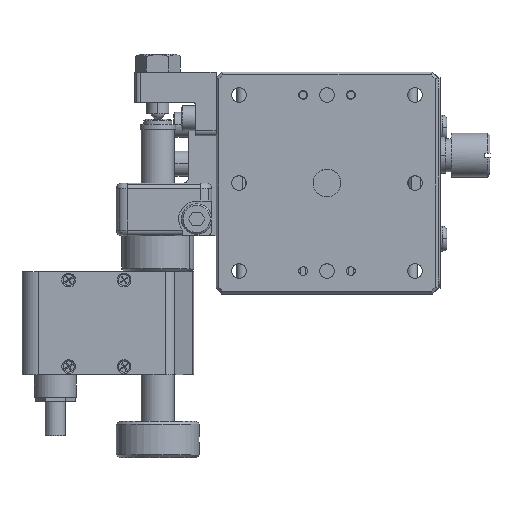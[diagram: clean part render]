
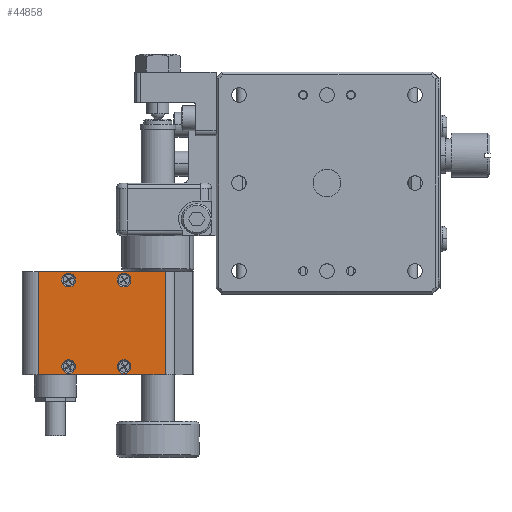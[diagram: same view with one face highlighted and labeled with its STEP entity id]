
A CAD part, top view. The second image highlights one B-rep face of the part: STEP entity #44858.
In plain terms, the highlighted planar face has unit normal (0, 0, 1) as drawn and (0, 0, -1) by its records, which use the part's own axes.
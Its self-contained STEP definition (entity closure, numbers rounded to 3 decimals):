
#398 = LINE ( 'NONE', #32602, #17874 ) ;
#399 = CARTESIAN_POINT ( 'NONE',  ( -102.248, -34.426, -63.353 ) ) ;
#670 = AXIS2_PLACEMENT_3D ( 'NONE', #399, #29032, #29495 ) ;
#1150 = CARTESIAN_POINT ( 'NONE',  ( -113.498, -34.426, -63.353 ) ) ;
#1625 = CIRCLE ( 'NONE', #9985, 1.25 ) ;
#1752 = EDGE_CURVE ( 'NONE', #8333, #39153, #18120, .T. ) ;
#1891 = EDGE_CURVE ( 'NONE', #32755, #18820, #20287, .T. ) ;
#2566 = AXIS2_PLACEMENT_3D ( 'NONE', #34320, #23354, #20237 ) ;
#2644 = ORIENTED_EDGE ( 'NONE', *, *, #33656, .F. ) ;
#2916 = LINE ( 'NONE', #10055, #46033 ) ;
#4444 = ORIENTED_EDGE ( 'NONE', *, *, #28870, .T. ) ;
#5360 = EDGE_LOOP ( 'NONE', ( #31943, #36322 ) ) ;
#5366 = VERTEX_POINT ( 'NONE', #8086 ) ;
#5564 = EDGE_CURVE ( 'NONE', #32997, #32348, #14298, .T. ) ;
#5994 = ORIENTED_EDGE ( 'NONE', *, *, #20140, .F. ) ;
#6088 = CIRCLE ( 'NONE', #42656, 1.25 ) ;
#6212 = CARTESIAN_POINT ( 'NONE',  ( -117.648, -35.926, -63.353 ) ) ;
#6739 = CARTESIAN_POINT ( 'NONE',  ( -112.248, -17.576, -63.353 ) ) ;
#7044 = DIRECTION ( 'NONE',  ( 0., 0., -1. ) ) ;
#7209 = FACE_BOUND ( 'NONE', #17309, .T. ) ;
#7308 = CARTESIAN_POINT ( 'NONE',  ( -112.248, -34.426, -63.353 ) ) ;
#7845 = EDGE_CURVE ( 'NONE', #18437, #35997, #30621, .T. ) ;
#8086 = CARTESIAN_POINT ( 'NONE',  ( -94.853, -35.926, -63.353 ) ) ;
#8333 = VERTEX_POINT ( 'NONE', #47104 ) ;
#8822 = AXIS2_PLACEMENT_3D ( 'NONE', #36645, #36182, #14681 ) ;
#9264 = ORIENTED_EDGE ( 'NONE', *, *, #37974, .F. ) ;
#9704 = DIRECTION ( 'NONE',  ( 0., 0., -1. ) ) ;
#9985 = AXIS2_PLACEMENT_3D ( 'NONE', #7308, #24933, #10622 ) ;
#10055 = CARTESIAN_POINT ( 'NONE',  ( -117.648, -35.926, -63.353 ) ) ;
#10622 = DIRECTION ( 'NONE',  ( 1., 0., 0. ) ) ;
#11812 = DIRECTION ( 'NONE',  ( 0., 1., 0. ) ) ;
#12415 = DIRECTION ( 'NONE',  ( 0., 1., 0. ) ) ;
#12805 = DIRECTION ( 'NONE',  ( 1., 0., 0. ) ) ;
#14298 = CIRCLE ( 'NONE', #33390, 1.25 ) ;
#14681 = DIRECTION ( 'NONE',  ( 0., 1., 0. ) ) ;
#16481 = CARTESIAN_POINT ( 'NONE',  ( -112.248, -18.826, -63.353 ) ) ;
#17006 = EDGE_CURVE ( 'NONE', #39153, #8333, #6088, .T. ) ;
#17276 = CARTESIAN_POINT ( 'NONE',  ( -117.648, -17.326, -63.353 ) ) ;
#17289 = DIRECTION ( 'NONE',  ( 0., 1., 0. ) ) ;
#17309 = EDGE_LOOP ( 'NONE', ( #26051, #9264 ) ) ;
#17690 = FACE_OUTER_BOUND ( 'NONE', #41655, .T. ) ;
#17874 = VECTOR ( 'NONE', #47143, 1000. ) ;
#18120 = CIRCLE ( 'NONE', #37936, 1.25 ) ;
#18164 = PLANE ( 'NONE',  #18624 ) ;
#18437 = VERTEX_POINT ( 'NONE', #6739 ) ;
#18624 = AXIS2_PLACEMENT_3D ( 'NONE', #25075, #39878, #46553 ) ;
#18765 = EDGE_LOOP ( 'NONE', ( #33107, #39033 ) ) ;
#18820 = VERTEX_POINT ( 'NONE', #6212 ) ;
#18972 = CARTESIAN_POINT ( 'NONE',  ( -102.248, -18.826, -63.353 ) ) ;
#20140 = EDGE_CURVE ( 'NONE', #35997, #18437, #27065, .T. ) ;
#20237 = DIRECTION ( 'NONE',  ( 0., 1., 0. ) ) ;
#20287 = LINE ( 'NONE', #42467, #29567 ) ;
#20444 = ORIENTED_EDGE ( 'NONE', *, *, #44768, .F. ) ;
#21411 = ORIENTED_EDGE ( 'NONE', *, *, #7845, .F. ) ;
#22716 = EDGE_CURVE ( 'NONE', #29110, #36854, #30193, .T. ) ;
#23354 = DIRECTION ( 'NONE',  ( 0., 0., -1. ) ) ;
#23601 = CARTESIAN_POINT ( 'NONE',  ( -102.248, -17.576, -63.353 ) ) ;
#23637 = DIRECTION ( 'NONE',  ( 0., 0., -1. ) ) ;
#24264 = CARTESIAN_POINT ( 'NONE',  ( -112.248, -34.426, -63.353 ) ) ;
#24907 = CARTESIAN_POINT ( 'NONE',  ( -102.248, -18.826, -63.353 ) ) ;
#24933 = DIRECTION ( 'NONE',  ( 0., 0., -1. ) ) ;
#25075 = CARTESIAN_POINT ( 'NONE',  ( -94.853, -35.926, -63.353 ) ) ;
#26051 = ORIENTED_EDGE ( 'NONE', *, *, #5564, .F. ) ;
#27065 = CIRCLE ( 'NONE', #2566, 1.25 ) ;
#27092 = CARTESIAN_POINT ( 'NONE',  ( -117.648, -17.326, -63.353 ) ) ;
#27593 = VECTOR ( 'NONE', #46373, 1000. ) ;
#28870 = EDGE_CURVE ( 'NONE', #32755, #29417, #31131, .T. ) ;
#29032 = DIRECTION ( 'NONE',  ( 0., 0., -1. ) ) ;
#29110 = VERTEX_POINT ( 'NONE', #35365 ) ;
#29417 = VERTEX_POINT ( 'NONE', #38658 ) ;
#29495 = DIRECTION ( 'NONE',  ( 0., 1., 0. ) ) ;
#29567 = VECTOR ( 'NONE', #38436, 1000. ) ;
#29963 = DIRECTION ( 'NONE',  ( 0., 0., -1. ) ) ;
#30193 = CIRCLE ( 'NONE', #8822, 1.25 ) ;
#30621 = CIRCLE ( 'NONE', #42807, 1.25 ) ;
#31131 = LINE ( 'NONE', #17276, #27593 ) ;
#31340 = ORIENTED_EDGE ( 'NONE', *, *, #1891, .F. ) ;
#31903 = CIRCLE ( 'NONE', #670, 1.25 ) ;
#31943 = ORIENTED_EDGE ( 'NONE', *, *, #17006, .F. ) ;
#32246 = FACE_BOUND ( 'NONE', #5360, .T. ) ;
#32348 = VERTEX_POINT ( 'NONE', #1150 ) ;
#32602 = CARTESIAN_POINT ( 'NONE',  ( -94.853, -35.926, -63.353 ) ) ;
#32755 = VERTEX_POINT ( 'NONE', #27092 ) ;
#32942 = EDGE_LOOP ( 'NONE', ( #21411, #5994 ) ) ;
#32997 = VERTEX_POINT ( 'NONE', #44680 ) ;
#33107 = ORIENTED_EDGE ( 'NONE', *, *, #22716, .F. ) ;
#33390 = AXIS2_PLACEMENT_3D ( 'NONE', #24264, #9704, #12805 ) ;
#33656 = EDGE_CURVE ( 'NONE', #5366, #29417, #398, .T. ) ;
#34320 = CARTESIAN_POINT ( 'NONE',  ( -112.248, -18.826, -63.353 ) ) ;
#34693 = EDGE_CURVE ( 'NONE', #36854, #29110, #31903, .T. ) ;
#35365 = CARTESIAN_POINT ( 'NONE',  ( -102.248, -33.176, -63.353 ) ) ;
#35822 = FACE_BOUND ( 'NONE', #18765, .T. ) ;
#35997 = VERTEX_POINT ( 'NONE', #43771 ) ;
#36182 = DIRECTION ( 'NONE',  ( 0., 0., -1. ) ) ;
#36322 = ORIENTED_EDGE ( 'NONE', *, *, #1752, .F. ) ;
#36645 = CARTESIAN_POINT ( 'NONE',  ( -102.248, -34.426, -63.353 ) ) ;
#36766 = FACE_BOUND ( 'NONE', #32942, .T. ) ;
#36854 = VERTEX_POINT ( 'NONE', #43076 ) ;
#37936 = AXIS2_PLACEMENT_3D ( 'NONE', #24907, #7044, #17289 ) ;
#37974 = EDGE_CURVE ( 'NONE', #32348, #32997, #1625, .T. ) ;
#38436 = DIRECTION ( 'NONE',  ( 0., -1., 0. ) ) ;
#38658 = CARTESIAN_POINT ( 'NONE',  ( -94.853, -17.326, -63.353 ) ) ;
#39033 = ORIENTED_EDGE ( 'NONE', *, *, #34693, .F. ) ;
#39153 = VERTEX_POINT ( 'NONE', #23601 ) ;
#39878 = DIRECTION ( 'NONE',  ( 0., 0., 1. ) ) ;
#41655 = EDGE_LOOP ( 'NONE', ( #31340, #4444, #2644, #20444 ) ) ;
#42043 = DIRECTION ( 'NONE',  ( 1., 0., 0. ) ) ;
#42467 = CARTESIAN_POINT ( 'NONE',  ( -117.648, -35.926, -63.353 ) ) ;
#42656 = AXIS2_PLACEMENT_3D ( 'NONE', #18972, #29963, #11812 ) ;
#42807 = AXIS2_PLACEMENT_3D ( 'NONE', #16481, #23637, #12415 ) ;
#43076 = CARTESIAN_POINT ( 'NONE',  ( -102.248, -35.676, -63.353 ) ) ;
#43771 = CARTESIAN_POINT ( 'NONE',  ( -112.248, -20.076, -63.353 ) ) ;
#44680 = CARTESIAN_POINT ( 'NONE',  ( -110.998, -34.426, -63.353 ) ) ;
#44768 = EDGE_CURVE ( 'NONE', #18820, #5366, #2916, .T. ) ;
#44858 = ADVANCED_FACE ( 'NONE', ( #17690, #7209, #35822, #36766, #32246 ), #18164, .F. ) ;
#46033 = VECTOR ( 'NONE', #42043, 1000. ) ;
#46373 = DIRECTION ( 'NONE',  ( 1., 0., 0. ) ) ;
#46553 = DIRECTION ( 'NONE',  ( 1., 0., 0. ) ) ;
#47104 = CARTESIAN_POINT ( 'NONE',  ( -102.248, -20.076, -63.353 ) ) ;
#47143 = DIRECTION ( 'NONE',  ( 0., 1., 0. ) ) ;
